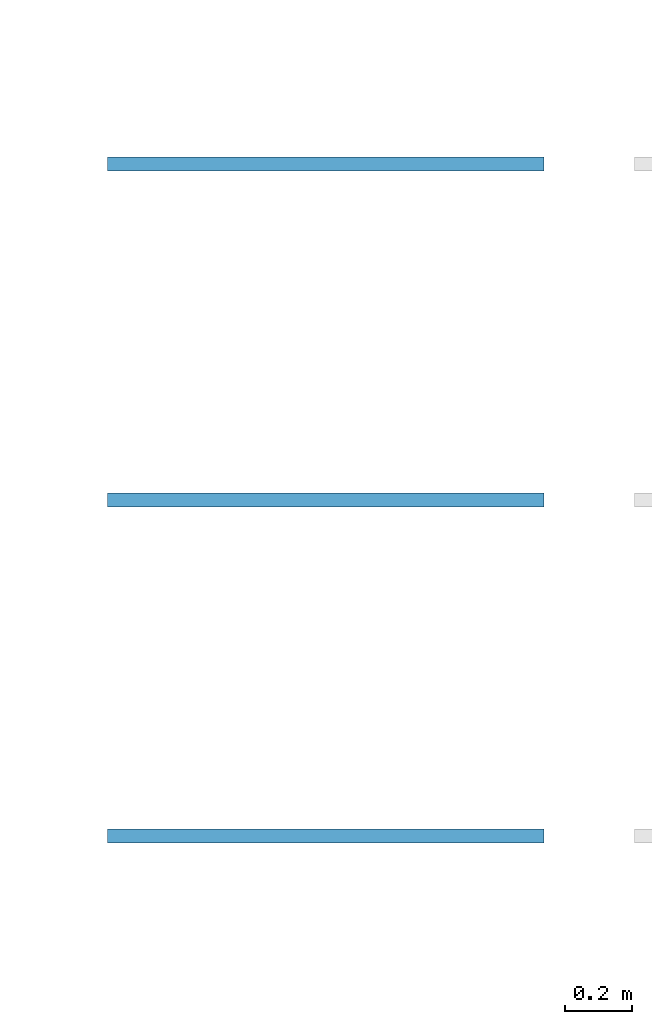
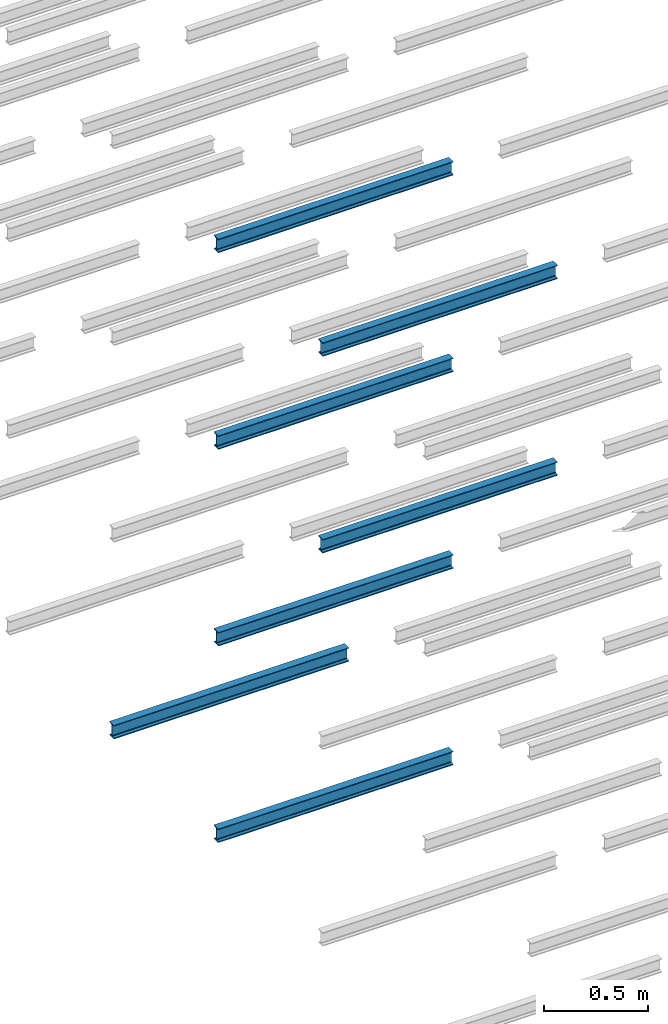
# One storey, part 78 of 290: 7 beams.
"""IFC2X3 building model written with IfcOpenShell, lengths in metres."""

from ifc_helpers import new_model, entity, si_unit, converted_unit, derived_unit, direction, frame, frame_2d, origin, place, context, subcontext, project, spatial, polyline, circle_curve, parameter, trimmed, segment, composite_curve, outline, extrude, material, type_object, element, save


model = new_model("IFC2X3")

# Units and contexts
model_context = context("Model", 3, precision=1e-05, world=origin(), true_north=direction((6.12303176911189e-17, 1.0)))
body_context = subcontext(model_context, "Body", "Model", "MODEL_VIEW")
ifc_project = project(units=[si_unit("LENGTHUNIT", "METRE"), si_unit("AREAUNIT", "SQUARE_METRE"), si_unit("VOLUMEUNIT", "CUBIC_METRE"), converted_unit("PLANEANGLEUNIT", "DEGREE", entity("IfcRatioMeasure", 0.0174532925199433), si_unit("PLANEANGLEUNIT", "RADIAN"), dimensions=[0, 0, 0, 0, 0, 0, 0]), si_unit("MASSUNIT", "GRAM", prefix="KILO"), derived_unit("MASSDENSITYUNIT", [(si_unit("MASSUNIT", "GRAM", prefix="KILO"), 1), (si_unit("LENGTHUNIT", "METRE"), -3)]), derived_unit("MOMENTOFINERTIAUNIT", [(si_unit("LENGTHUNIT", "METRE"), 4)]), si_unit("TIMEUNIT", "SECOND"), si_unit("FREQUENCYUNIT", "HERTZ"), si_unit("THERMODYNAMICTEMPERATUREUNIT", "DEGREE_CELSIUS"), derived_unit("THERMALTRANSMITTANCEUNIT", [(si_unit("MASSUNIT", "GRAM", prefix="KILO"), 1), (si_unit("THERMODYNAMICTEMPERATUREUNIT", "KELVIN"), -1), (si_unit("TIMEUNIT", "SECOND"), -3)]), derived_unit("VOLUMETRICFLOWRATEUNIT", [(si_unit("LENGTHUNIT", "METRE"), 3), (si_unit("TIMEUNIT", "SECOND"), -1)]), si_unit("ELECTRICCURRENTUNIT", "AMPERE"), si_unit("ELECTRICVOLTAGEUNIT", "VOLT"), si_unit("POWERUNIT", "WATT"), si_unit("FORCEUNIT", "NEWTON", prefix="KILO"), si_unit("ILLUMINANCEUNIT", "LUX"), si_unit("LUMINOUSFLUXUNIT", "LUMEN"), si_unit("LUMINOUSINTENSITYUNIT", "CANDELA"), derived_unit("USERDEFINED", [(si_unit("MASSUNIT", "GRAM", prefix="KILO"), -1), (si_unit("LENGTHUNIT", "METRE"), -2), (si_unit("TIMEUNIT", "SECOND"), 3), (si_unit("LUMINOUSFLUXUNIT", "LUMEN"), 1)]), derived_unit("LINEARVELOCITYUNIT", [(si_unit("LENGTHUNIT", "METRE"), 1), (si_unit("TIMEUNIT", "SECOND"), -1)]), si_unit("PRESSUREUNIT", "PASCAL"), derived_unit("USERDEFINED", [(si_unit("LENGTHUNIT", "METRE"), -2), (si_unit("MASSUNIT", "GRAM", prefix="KILO"), 1), (si_unit("TIMEUNIT", "SECOND"), -2)]), derived_unit("LINEARFORCEUNIT", [(si_unit("MASSUNIT", "GRAM", prefix="KILO"), 1), (si_unit("LENGTHUNIT", "METRE"), 1), (si_unit("TIMEUNIT", "SECOND"), -2), (si_unit("LENGTHUNIT", "METRE"), -1)]), derived_unit("PLANARFORCEUNIT", [(si_unit("MASSUNIT", "GRAM", prefix="KILO"), 1), (si_unit("LENGTHUNIT", "METRE"), 1), (si_unit("TIMEUNIT", "SECOND"), -2), (si_unit("LENGTHUNIT", "METRE"), -2)])], contexts=[model_context])

# Site, building, storey
site_placement = place(None, origin())
site = spatial("IfcSite", under=ifc_project, at=site_placement, Name="Default", CompositionType="ELEMENT")
building_placement = place(site_placement, origin())
building = spatial("IfcBuilding", under=site, at=building_placement, CompositionType="ELEMENT")
storey_placement = place(building_placement, frame((0.0, 0.0, 4.0)))
storey = spatial("IfcBuildingStorey", under=building, at=storey_placement, Name="01_OG", CompositionType="ELEMENT", Elevation=4.0)

# Beams
ifc_material = material(Name="Metall - Baustahl S235")
beam_type = type_object("IfcBeamType", Name="IPN Träger:IPN 80", PredefinedType="NOTDEFINED")
beam_1_placement = place(storey_placement, frame((-170.780111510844, 34.036588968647, -1.73), z_axis=(0.0, 0.0, 1.0), x_axis=(-1.0, 0.0, 0.0)))
element("IfcBeam", 1, at=beam_1_placement, inside=storey, type_object=beam_type, material=ifc_material, Name="IPN Träger:IPN 80", ObjectType="IPN Träger:IPN 80", context=body_context, shape_type="SweptSolid", body=[
    extrude(outline(composite_curve([segment(polyline([(0.0375704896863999, -0.0209999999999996), (0.0399999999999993, -0.0209999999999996)]), True, "CONTINUOUS"), segment(polyline([(0.0399999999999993, -0.0209999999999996), (0.0399999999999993, 0.0209999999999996)]), True, "CONTINUOUS"), segment(polyline([(0.0399999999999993, 0.0209999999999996), (0.0375704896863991, 0.0209999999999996)]), True, "CONTINUOUS"), segment(trimmed(circle_curve(frame_2d((0.0375704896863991, 0.0187000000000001), x_axis=(0.0, 1.0)), 0.00230000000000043), [parameter(0.0)], [parameter(82.0299999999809)], True, "PARAMETER"), True, "CONTINUOUS"), segment(polyline([(0.0352927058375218, 0.0190189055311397), (0.0333732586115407, 0.00530924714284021)]), True, "CONTINUOUS"), segment(trimmed(circle_curve(frame_2d((0.0295109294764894, 0.00584999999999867), x_axis=(0.990340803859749, -0.138654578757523)), 0.00389999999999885), [parameter(277.969999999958)], [parameter(0.0)], True, "PARAMETER"), False, "CONTINUOUS"), segment(polyline([(0.0295109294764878, 0.00194999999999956), (-0.0295109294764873, 0.00194999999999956)]), True, "CONTINUOUS"), segment(trimmed(circle_curve(frame_2d((-0.0295109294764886, 0.00584999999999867), x_axis=(0.0, -1.0)), 0.00389999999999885), [parameter(277.969999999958)], [parameter(0.0)], True, "PARAMETER"), False, "CONTINUOUS"), segment(polyline([(-0.0333732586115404, 0.00530924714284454), (-0.0352927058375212, 0.019018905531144)]), True, "CONTINUOUS"), segment(trimmed(circle_curve(frame_2d((-0.0375704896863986, 0.0187000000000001), x_axis=(0.990340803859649, 0.138654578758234)), 0.00230000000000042), [parameter(0.0)], [parameter(82.0299999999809)], True, "PARAMETER"), True, "CONTINUOUS"), segment(polyline([(-0.0375704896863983, 0.0209999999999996), (-0.0400000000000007, 0.0209999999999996)]), True, "CONTINUOUS"), segment(polyline([(-0.0400000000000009, 0.0209999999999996), (-0.0400000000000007, -0.0209999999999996)]), True, "CONTINUOUS"), segment(polyline([(-0.0400000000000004, -0.0209999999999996), (-0.0375704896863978, -0.0209999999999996)]), True, "CONTINUOUS"), segment(trimmed(circle_curve(frame_2d((-0.0375704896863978, -0.0187000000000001), x_axis=(0.0, -1.0)), 0.00230000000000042), [parameter(0.0)], [parameter(82.0299999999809)], True, "PARAMETER"), True, "CONTINUOUS"), segment(polyline([(-0.0352927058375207, -0.0190189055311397), (-0.0333732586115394, -0.00530924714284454)]), True, "CONTINUOUS"), segment(trimmed(circle_curve(frame_2d((-0.0295109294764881, -0.00584999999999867), x_axis=(-0.990340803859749, 0.138654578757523)), 0.00389999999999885), [parameter(277.969999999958)], [parameter(0.0)], True, "PARAMETER"), False, "CONTINUOUS"), segment(polyline([(-0.0295109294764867, -0.00194999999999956), (0.0295109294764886, -0.00194999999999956)]), True, "CONTINUOUS"), segment(trimmed(circle_curve(frame_2d((0.0295109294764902, -0.00584999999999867), x_axis=(0.0, 1.0)), 0.0038999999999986), [parameter(277.969999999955)], [parameter(0.0)], True, "PARAMETER"), False, "CONTINUOUS"), segment(polyline([(0.0333732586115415, -0.00530924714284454), (0.0352927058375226, -0.019018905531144)]), True, "CONTINUOUS"), segment(trimmed(circle_curve(frame_2d((0.0375704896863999, -0.0187000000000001), x_axis=(-0.990340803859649, -0.138654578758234)), 0.00230000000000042), [parameter(0.0)], [parameter(82.0299999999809)], True, "PARAMETER"), True, "CONTINUOUS")], self_intersect=False)), frame((0.00010000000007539, 0.0209999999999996, -0.0400000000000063), z_axis=(1.0, 0.0, 0.0), x_axis=(0.0, 0.0, -1.0)), (0.0, 0.0, 1.0), 1.29990000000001),
])
beam_2_placement = place(storey_placement, frame((-170.780111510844, 33.036588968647, -1.73), z_axis=(0.0, 0.0, 1.0), x_axis=(-1.0, 0.0, 0.0)))
element("IfcBeam", 2, at=beam_2_placement, inside=storey, type_object=beam_type, material=ifc_material, Name="IPN Träger:IPN 80", ObjectType="IPN Träger:IPN 80", context=body_context, shape_type="SweptSolid", body=[
    extrude(outline(composite_curve([segment(polyline([(0.0375704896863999, -0.0209999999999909), (0.0399999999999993, -0.0209999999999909)]), True, "CONTINUOUS"), segment(polyline([(0.0399999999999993, -0.0209999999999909), (0.0399999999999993, 0.0210000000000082)]), True, "CONTINUOUS"), segment(polyline([(0.0399999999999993, 0.0210000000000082), (0.0375704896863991, 0.0210000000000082)]), True, "CONTINUOUS"), segment(trimmed(circle_curve(frame_2d((0.0375704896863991, 0.0187000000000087), x_axis=(0.0, 1.0)), 0.00230000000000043), [parameter(0.0)], [parameter(82.0299999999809)], True, "PARAMETER"), True, "CONTINUOUS"), segment(polyline([(0.0352927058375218, 0.0190189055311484), (0.0333732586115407, 0.00530924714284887)]), True, "CONTINUOUS"), segment(trimmed(circle_curve(frame_2d((0.0295109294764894, 0.00585000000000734), x_axis=(0.990340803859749, -0.138654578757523)), 0.00389999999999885), [parameter(277.969999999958)], [parameter(0.0)], True, "PARAMETER"), False, "CONTINUOUS"), segment(polyline([(0.0295109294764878, 0.00195000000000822), (-0.0295109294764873, 0.00195000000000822)]), True, "CONTINUOUS"), segment(trimmed(circle_curve(frame_2d((-0.0295109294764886, 0.00585000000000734), x_axis=(0.0, -1.0)), 0.00389999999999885), [parameter(277.969999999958)], [parameter(0.0)], True, "PARAMETER"), False, "CONTINUOUS"), segment(polyline([(-0.0333732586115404, 0.0053092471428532), (-0.0352927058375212, 0.0190189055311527)]), True, "CONTINUOUS"), segment(trimmed(circle_curve(frame_2d((-0.0375704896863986, 0.0187000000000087), x_axis=(0.990340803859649, 0.138654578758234)), 0.00230000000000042), [parameter(0.0)], [parameter(82.0299999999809)], True, "PARAMETER"), True, "CONTINUOUS"), segment(polyline([(-0.0375704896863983, 0.0210000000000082), (-0.0400000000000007, 0.0210000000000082)]), True, "CONTINUOUS"), segment(polyline([(-0.0400000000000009, 0.0210000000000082), (-0.0400000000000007, -0.0209999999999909)]), True, "CONTINUOUS"), segment(polyline([(-0.0400000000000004, -0.0209999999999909), (-0.0375704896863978, -0.0209999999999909)]), True, "CONTINUOUS"), segment(trimmed(circle_curve(frame_2d((-0.0375704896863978, -0.0186999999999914), x_axis=(0.0, -1.0)), 0.00230000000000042), [parameter(0.0)], [parameter(82.0299999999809)], True, "PARAMETER"), True, "CONTINUOUS"), segment(polyline([(-0.0352927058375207, -0.019018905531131), (-0.0333732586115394, -0.00530924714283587)]), True, "CONTINUOUS"), segment(trimmed(circle_curve(frame_2d((-0.0295109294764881, -0.00584999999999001), x_axis=(-0.990340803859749, 0.138654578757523)), 0.00389999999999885), [parameter(277.969999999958)], [parameter(0.0)], True, "PARAMETER"), False, "CONTINUOUS"), segment(polyline([(-0.0295109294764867, -0.00194999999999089), (0.0295109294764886, -0.00194999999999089)]), True, "CONTINUOUS"), segment(trimmed(circle_curve(frame_2d((0.0295109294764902, -0.00584999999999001), x_axis=(0.0, 1.0)), 0.0038999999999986), [parameter(277.969999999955)], [parameter(0.0)], True, "PARAMETER"), False, "CONTINUOUS"), segment(polyline([(0.0333732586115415, -0.00530924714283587), (0.0352927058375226, -0.0190189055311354)]), True, "CONTINUOUS"), segment(trimmed(circle_curve(frame_2d((0.0375704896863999, -0.0186999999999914), x_axis=(-0.990340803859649, -0.138654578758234)), 0.00230000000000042), [parameter(0.0)], [parameter(82.0299999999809)], True, "PARAMETER"), True, "CONTINUOUS")], self_intersect=False)), frame((0.00010000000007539, 0.0209999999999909, -0.0400000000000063), z_axis=(1.0, 0.0, 0.0), x_axis=(0.0, 0.0, -1.0)), (0.0, 0.0, 1.0), 1.29990000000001),
])
beam_3_placement = place(storey_placement, frame((-170.780111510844, 33.036588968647, -0.579999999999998), z_axis=(0.0, 0.0, 1.0), x_axis=(-1.0, 0.0, 0.0)))
element("IfcBeam", 3, at=beam_3_placement, inside=storey, type_object=beam_type, material=ifc_material, Name="IPN Träger:IPN 80", ObjectType="IPN Träger:IPN 80", context=body_context, shape_type="SweptSolid", body=[
    extrude(outline(composite_curve([segment(polyline([(0.0375704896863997, -0.0209999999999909), (0.039999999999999, -0.0209999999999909)]), True, "CONTINUOUS"), segment(polyline([(0.039999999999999, -0.0209999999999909), (0.039999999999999, 0.0210000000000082)]), True, "CONTINUOUS"), segment(polyline([(0.039999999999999, 0.0210000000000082), (0.0375704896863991, 0.0210000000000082)]), True, "CONTINUOUS"), segment(trimmed(circle_curve(frame_2d((0.0375704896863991, 0.0187000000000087), x_axis=(0.0, 1.0)), 0.00230000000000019), [parameter(0.0)], [parameter(82.02999999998)], True, "PARAMETER"), True, "CONTINUOUS"), segment(polyline([(0.0352927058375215, 0.0190189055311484), (0.0333732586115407, 0.00530924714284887)]), True, "CONTINUOUS"), segment(trimmed(circle_curve(frame_2d((0.0295109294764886, 0.00585000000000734), x_axis=(0.990340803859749, -0.138654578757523)), 0.00389999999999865), [parameter(277.969999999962)], [parameter(0.0)], True, "PARAMETER"), False, "CONTINUOUS"), segment(polyline([(0.0295109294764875, 0.00195000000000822), (-0.0295109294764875, 0.00195000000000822)]), True, "CONTINUOUS"), segment(trimmed(circle_curve(frame_2d((-0.0295109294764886, 0.00585000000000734), x_axis=(0.0, -1.0)), 0.00389999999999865), [parameter(277.969999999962)], [parameter(0.0)], True, "PARAMETER"), False, "CONTINUOUS"), segment(polyline([(-0.0333732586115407, 0.0053092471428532), (-0.0352927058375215, 0.0190189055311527)]), True, "CONTINUOUS"), segment(trimmed(circle_curve(frame_2d((-0.0375704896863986, 0.0187000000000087), x_axis=(0.990340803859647, 0.138654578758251)), 0.00230000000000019), [parameter(0.0)], [parameter(82.02999999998)], True, "PARAMETER"), True, "CONTINUOUS"), segment(polyline([(-0.0375704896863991, 0.0210000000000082), (-0.0400000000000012, 0.0210000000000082)]), True, "CONTINUOUS"), segment(polyline([(-0.0400000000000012, 0.0210000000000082), (-0.0400000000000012, -0.0209999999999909)]), True, "CONTINUOUS"), segment(polyline([(-0.0400000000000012, -0.0209999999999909), (-0.037570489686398, -0.0209999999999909)]), True, "CONTINUOUS"), segment(trimmed(circle_curve(frame_2d((-0.037570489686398, -0.0186999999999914), x_axis=(0.0, -1.0)), 0.00230000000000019), [parameter(0.0)], [parameter(82.02999999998)], True, "PARAMETER"), True, "CONTINUOUS"), segment(polyline([(-0.035292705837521, -0.019018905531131), (-0.0333732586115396, -0.00530924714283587)]), True, "CONTINUOUS"), segment(trimmed(circle_curve(frame_2d((-0.0295109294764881, -0.00584999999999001), x_axis=(-0.990340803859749, 0.138654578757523)), 0.00389999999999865), [parameter(277.969999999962)], [parameter(0.0)], True, "PARAMETER"), False, "CONTINUOUS"), segment(polyline([(-0.029510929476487, -0.00194999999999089), (0.0295109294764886, -0.00194999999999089)]), True, "CONTINUOUS"), segment(trimmed(circle_curve(frame_2d((0.0295109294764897, -0.00584999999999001), x_axis=(0.0, 1.0)), 0.00389999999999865), [parameter(277.969999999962)], [parameter(0.0)], True, "PARAMETER"), False, "CONTINUOUS"), segment(polyline([(0.0333732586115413, -0.00530924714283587), (0.0352927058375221, -0.0190189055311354)]), True, "CONTINUOUS"), segment(trimmed(circle_curve(frame_2d((0.0375704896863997, -0.0186999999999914), x_axis=(-0.990340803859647, -0.138654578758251)), 0.00230000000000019), [parameter(0.0)], [parameter(82.02999999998)], True, "PARAMETER"), True, "CONTINUOUS")], self_intersect=False)), frame((0.000100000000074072, 0.0209999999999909, -0.0400000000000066), z_axis=(1.0, 0.0, 0.0), x_axis=(0.0, 0.0, -1.0)), (0.0, 0.0, 1.0), 1.29990000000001),
])
beam_4_placement = place(storey_placement, frame((-170.780111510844, 33.036588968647, 0.570000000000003), z_axis=(0.0, 0.0, 1.0), x_axis=(-1.0, 0.0, 0.0)))
element("IfcBeam", 4, at=beam_4_placement, inside=storey, type_object=beam_type, material=ifc_material, Name="IPN Träger:IPN 80", ObjectType="IPN Träger:IPN 80", context=body_context, shape_type="SweptSolid", body=[
    extrude(outline(composite_curve([segment(polyline([(0.0375704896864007, -0.0209999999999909), (0.0400000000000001, -0.0209999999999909)]), True, "CONTINUOUS"), segment(polyline([(0.0400000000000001, -0.0209999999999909), (0.0400000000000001, 0.0210000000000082)]), True, "CONTINUOUS"), segment(polyline([(0.0400000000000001, 0.0210000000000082), (0.0375704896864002, 0.0210000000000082)]), True, "CONTINUOUS"), segment(trimmed(circle_curve(frame_2d((0.0375704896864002, 0.0187000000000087), x_axis=(0.0, 1.0)), 0.00230000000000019), [parameter(0.0)], [parameter(82.02999999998)], True, "PARAMETER"), True, "CONTINUOUS"), segment(polyline([(0.0352927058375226, 0.0190189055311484), (0.0333732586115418, 0.00530924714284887)]), True, "CONTINUOUS"), segment(trimmed(circle_curve(frame_2d((0.0295109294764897, 0.00585000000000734), x_axis=(0.990340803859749, -0.138654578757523)), 0.00389999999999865), [parameter(277.969999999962)], [parameter(0.0)], True, "PARAMETER"), False, "CONTINUOUS"), segment(polyline([(0.0295109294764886, 0.00195000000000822), (-0.0295109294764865, 0.00195000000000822)]), True, "CONTINUOUS"), segment(trimmed(circle_curve(frame_2d((-0.0295109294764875, 0.00585000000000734), x_axis=(0.0, -1.0)), 0.00389999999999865), [parameter(277.969999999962)], [parameter(0.0)], True, "PARAMETER"), False, "CONTINUOUS"), segment(polyline([(-0.0333732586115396, 0.0053092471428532), (-0.0352927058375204, 0.0190189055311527)]), True, "CONTINUOUS"), segment(trimmed(circle_curve(frame_2d((-0.0375704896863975, 0.0187000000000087), x_axis=(0.990340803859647, 0.138654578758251)), 0.00230000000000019), [parameter(0.0)], [parameter(82.02999999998)], True, "PARAMETER"), True, "CONTINUOUS"), segment(polyline([(-0.037570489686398, 0.0210000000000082), (-0.0400000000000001, 0.0210000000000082)]), True, "CONTINUOUS"), segment(polyline([(-0.0400000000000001, 0.0210000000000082), (-0.0400000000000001, -0.0209999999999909)]), True, "CONTINUOUS"), segment(polyline([(-0.0400000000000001, -0.0209999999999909), (-0.0375704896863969, -0.0209999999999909)]), True, "CONTINUOUS"), segment(trimmed(circle_curve(frame_2d((-0.0375704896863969, -0.0186999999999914), x_axis=(0.0, -1.0)), 0.00230000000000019), [parameter(0.0)], [parameter(82.02999999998)], True, "PARAMETER"), True, "CONTINUOUS"), segment(polyline([(-0.0352927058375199, -0.019018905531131), (-0.0333732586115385, -0.00530924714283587)]), True, "CONTINUOUS"), segment(trimmed(circle_curve(frame_2d((-0.029510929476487, -0.00584999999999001), x_axis=(-0.990340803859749, 0.138654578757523)), 0.00389999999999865), [parameter(277.969999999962)], [parameter(0.0)], True, "PARAMETER"), False, "CONTINUOUS"), segment(polyline([(-0.0295109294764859, -0.00194999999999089), (0.0295109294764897, -0.00194999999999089)]), True, "CONTINUOUS"), segment(trimmed(circle_curve(frame_2d((0.0295109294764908, -0.00584999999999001), x_axis=(0.0, 1.0)), 0.00389999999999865), [parameter(277.969999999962)], [parameter(0.0)], True, "PARAMETER"), False, "CONTINUOUS"), segment(polyline([(0.0333732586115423, -0.00530924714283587), (0.0352927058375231, -0.0190189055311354)]), True, "CONTINUOUS"), segment(trimmed(circle_curve(frame_2d((0.0375704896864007, -0.0186999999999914), x_axis=(-0.990340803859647, -0.138654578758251)), 0.00230000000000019), [parameter(0.0)], [parameter(82.02999999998)], True, "PARAMETER"), True, "CONTINUOUS")], self_intersect=False)), frame((0.000100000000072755, 0.0209999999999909, -0.0400000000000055), z_axis=(1.0, 0.0, 0.0), x_axis=(0.0, 0.0, -1.0)), (0.0, 0.0, 1.0), 1.29990000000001),
])
beam_5_placement = place(storey_placement, frame((-170.780111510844, 33.036588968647, 1.72), z_axis=(0.0, 0.0, 1.0), x_axis=(-1.0, 0.0, 0.0)))
element("IfcBeam", 5, at=beam_5_placement, inside=storey, type_object=beam_type, material=ifc_material, Name="IPN Träger:IPN 80", ObjectType="IPN Träger:IPN 80", context=body_context, shape_type="SweptSolid", body=[
    extrude(outline(composite_curve([segment(polyline([(0.0375704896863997, -0.0209999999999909), (0.0399999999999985, -0.0209999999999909)]), True, "CONTINUOUS"), segment(polyline([(0.0399999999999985, -0.0209999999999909), (0.0399999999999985, 0.0210000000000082)]), True, "CONTINUOUS"), segment(polyline([(0.0399999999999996, 0.0210000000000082), (0.0375704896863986, 0.0210000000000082)]), True, "CONTINUOUS"), segment(trimmed(circle_curve(frame_2d((0.0375704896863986, 0.0187000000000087), x_axis=(0.0, 1.0)), 0.00230000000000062), [parameter(0.0)], [parameter(82.0299999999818)], True, "PARAMETER"), True, "CONTINUOUS"), segment(polyline([(0.0352927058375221, 0.0190189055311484), (0.0333732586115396, 0.00530924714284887)]), True, "CONTINUOUS"), segment(trimmed(circle_curve(frame_2d((0.0295109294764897, 0.00585000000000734), x_axis=(0.990340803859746, -0.138654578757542)), 0.00389999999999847), [parameter(277.969999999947)], [parameter(0.0)], True, "PARAMETER"), False, "CONTINUOUS"), segment(polyline([(0.0295109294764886, 0.00195000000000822), (-0.0295109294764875, 0.00195000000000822)]), True, "CONTINUOUS"), segment(trimmed(circle_curve(frame_2d((-0.0295109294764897, 0.00585000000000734), x_axis=(0.0, -1.0)), 0.00389999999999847), [parameter(277.969999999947)], [parameter(0.0)], True, "PARAMETER"), False, "CONTINUOUS"), segment(polyline([(-0.0333732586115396, 0.0053092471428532), (-0.0352927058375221, 0.0190189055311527)]), True, "CONTINUOUS"), segment(trimmed(circle_curve(frame_2d((-0.0375704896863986, 0.0187000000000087), x_axis=(0.990340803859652, 0.138654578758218)), 0.00230000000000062), [parameter(0.0)], [parameter(82.0299999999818)], True, "PARAMETER"), True, "CONTINUOUS"), segment(polyline([(-0.0375704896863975, 0.0210000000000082), (-0.0400000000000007, 0.0210000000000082)]), True, "CONTINUOUS"), segment(polyline([(-0.0400000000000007, 0.0210000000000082), (-0.0400000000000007, -0.0209999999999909)]), True, "CONTINUOUS"), segment(polyline([(-0.0400000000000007, -0.0209999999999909), (-0.0375704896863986, -0.0209999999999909)]), True, "CONTINUOUS"), segment(trimmed(circle_curve(frame_2d((-0.0375704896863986, -0.0186999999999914), x_axis=(0.0, -1.0)), 0.00230000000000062), [parameter(0.0)], [parameter(82.0299999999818)], True, "PARAMETER"), True, "CONTINUOUS"), segment(polyline([(-0.035292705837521, -0.019018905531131), (-0.0333732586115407, -0.00530924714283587)]), True, "CONTINUOUS"), segment(trimmed(circle_curve(frame_2d((-0.0295109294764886, -0.00584999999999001), x_axis=(-0.990340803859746, 0.138654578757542)), 0.00389999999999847), [parameter(277.969999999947)], [parameter(0.0)], True, "PARAMETER"), False, "CONTINUOUS"), segment(polyline([(-0.0295109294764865, -0.00194999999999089), (0.0295109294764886, -0.00194999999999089)]), True, "CONTINUOUS"), segment(trimmed(circle_curve(frame_2d((0.0295109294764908, -0.00584999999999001), x_axis=(0.0, 1.0)), 0.00389999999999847), [parameter(277.969999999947)], [parameter(0.0)], True, "PARAMETER"), False, "CONTINUOUS"), segment(polyline([(0.0333732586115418, -0.00530924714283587), (0.0352927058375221, -0.0190189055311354)]), True, "CONTINUOUS"), segment(trimmed(circle_curve(frame_2d((0.0375704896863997, -0.0186999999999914), x_axis=(-0.990340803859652, -0.138654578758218)), 0.00230000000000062), [parameter(0.0)], [parameter(82.0299999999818)], True, "PARAMETER"), True, "CONTINUOUS")], self_intersect=False)), frame((0.000100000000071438, 0.0209999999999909, -0.040000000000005), z_axis=(1.0, 0.0, 0.0), x_axis=(0.0, 0.0, -1.0)), (0.0, 0.0, 1.0), 1.29990000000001),
])
beam_6_placement = place(storey_placement, frame((-170.780111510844, 32.036588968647, 0.570000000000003), z_axis=(0.0, 0.0, 1.0), x_axis=(-1.0, 0.0, 0.0)))
element("IfcBeam", 6, at=beam_6_placement, inside=storey, type_object=beam_type, material=ifc_material, Name="IPN Träger:IPN 80", ObjectType="IPN Träger:IPN 80", context=body_context, shape_type="SweptSolid", body=[
    extrude(outline(composite_curve([segment(polyline([(0.0375704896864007, -0.0210000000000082), (0.0400000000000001, -0.0210000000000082)]), True, "CONTINUOUS"), segment(polyline([(0.0400000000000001, -0.0210000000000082), (0.0400000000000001, 0.0209999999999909)]), True, "CONTINUOUS"), segment(polyline([(0.0400000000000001, 0.0209999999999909), (0.0375704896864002, 0.0209999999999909)]), True, "CONTINUOUS"), segment(trimmed(circle_curve(frame_2d((0.0375704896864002, 0.0186999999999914), x_axis=(0.0, 1.0)), 0.00230000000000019), [parameter(0.0)], [parameter(82.02999999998)], True, "PARAMETER"), True, "CONTINUOUS"), segment(polyline([(0.0352927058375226, 0.019018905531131), (0.0333732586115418, 0.00530924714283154)]), True, "CONTINUOUS"), segment(trimmed(circle_curve(frame_2d((0.0295109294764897, 0.00584999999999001), x_axis=(0.990340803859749, -0.138654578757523)), 0.00389999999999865), [parameter(277.969999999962)], [parameter(0.0)], True, "PARAMETER"), False, "CONTINUOUS"), segment(polyline([(0.0295109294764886, 0.00194999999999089), (-0.0295109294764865, 0.00194999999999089)]), True, "CONTINUOUS"), segment(trimmed(circle_curve(frame_2d((-0.0295109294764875, 0.00584999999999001), x_axis=(0.0, -1.0)), 0.00389999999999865), [parameter(277.969999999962)], [parameter(0.0)], True, "PARAMETER"), False, "CONTINUOUS"), segment(polyline([(-0.0333732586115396, 0.00530924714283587), (-0.0352927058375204, 0.0190189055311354)]), True, "CONTINUOUS"), segment(trimmed(circle_curve(frame_2d((-0.0375704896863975, 0.0186999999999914), x_axis=(0.990340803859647, 0.138654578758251)), 0.00230000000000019), [parameter(0.0)], [parameter(82.02999999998)], True, "PARAMETER"), True, "CONTINUOUS"), segment(polyline([(-0.037570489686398, 0.0209999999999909), (-0.0400000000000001, 0.0209999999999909)]), True, "CONTINUOUS"), segment(polyline([(-0.0400000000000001, 0.0209999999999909), (-0.0400000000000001, -0.0210000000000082)]), True, "CONTINUOUS"), segment(polyline([(-0.0400000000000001, -0.0210000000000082), (-0.0375704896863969, -0.0210000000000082)]), True, "CONTINUOUS"), segment(trimmed(circle_curve(frame_2d((-0.0375704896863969, -0.0187000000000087), x_axis=(0.0, -1.0)), 0.00230000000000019), [parameter(0.0)], [parameter(82.02999999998)], True, "PARAMETER"), True, "CONTINUOUS"), segment(polyline([(-0.0352927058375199, -0.0190189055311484), (-0.0333732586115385, -0.0053092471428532)]), True, "CONTINUOUS"), segment(trimmed(circle_curve(frame_2d((-0.029510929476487, -0.00585000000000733), x_axis=(-0.990340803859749, 0.138654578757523)), 0.00389999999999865), [parameter(277.969999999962)], [parameter(0.0)], True, "PARAMETER"), False, "CONTINUOUS"), segment(polyline([(-0.0295109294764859, -0.00195000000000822), (0.0295109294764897, -0.00195000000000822)]), True, "CONTINUOUS"), segment(trimmed(circle_curve(frame_2d((0.0295109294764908, -0.00585000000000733), x_axis=(0.0, 1.0)), 0.00389999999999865), [parameter(277.969999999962)], [parameter(0.0)], True, "PARAMETER"), False, "CONTINUOUS"), segment(polyline([(0.0333732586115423, -0.0053092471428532), (0.0352927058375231, -0.0190189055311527)]), True, "CONTINUOUS"), segment(trimmed(circle_curve(frame_2d((0.0375704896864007, -0.0187000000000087), x_axis=(-0.990340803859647, -0.138654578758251)), 0.00230000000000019), [parameter(0.0)], [parameter(82.02999999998)], True, "PARAMETER"), True, "CONTINUOUS")], self_intersect=False)), frame((0.000100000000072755, 0.0210000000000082, -0.0400000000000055), z_axis=(1.0, 0.0, 0.0), x_axis=(0.0, 0.0, -1.0)), (0.0, 0.0, 1.0), 1.29990000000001),
])
beam_7_placement = place(storey_placement, frame((-170.780111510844, 32.036588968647, 1.72), z_axis=(0.0, 0.0, 1.0), x_axis=(-1.0, 0.0, 0.0)))
element("IfcBeam", 7, at=beam_7_placement, inside=storey, type_object=beam_type, material=ifc_material, Name="IPN Träger:IPN 80", ObjectType="IPN Träger:IPN 80", context=body_context, shape_type="SweptSolid", body=[
    extrude(outline(composite_curve([segment(polyline([(0.0375704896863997, -0.0210000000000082), (0.0399999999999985, -0.0210000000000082)]), True, "CONTINUOUS"), segment(polyline([(0.0399999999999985, -0.0210000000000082), (0.0399999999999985, 0.0209999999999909)]), True, "CONTINUOUS"), segment(polyline([(0.0399999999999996, 0.0209999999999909), (0.0375704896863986, 0.0209999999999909)]), True, "CONTINUOUS"), segment(trimmed(circle_curve(frame_2d((0.0375704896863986, 0.0186999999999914), x_axis=(0.0, 1.0)), 0.00230000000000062), [parameter(0.0)], [parameter(82.0299999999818)], True, "PARAMETER"), True, "CONTINUOUS"), segment(polyline([(0.0352927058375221, 0.019018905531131), (0.0333732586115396, 0.00530924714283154)]), True, "CONTINUOUS"), segment(trimmed(circle_curve(frame_2d((0.0295109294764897, 0.00584999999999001), x_axis=(0.990340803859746, -0.138654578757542)), 0.00389999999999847), [parameter(277.969999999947)], [parameter(0.0)], True, "PARAMETER"), False, "CONTINUOUS"), segment(polyline([(0.0295109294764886, 0.00194999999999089), (-0.0295109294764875, 0.00194999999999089)]), True, "CONTINUOUS"), segment(trimmed(circle_curve(frame_2d((-0.0295109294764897, 0.00584999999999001), x_axis=(0.0, -1.0)), 0.00389999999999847), [parameter(277.969999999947)], [parameter(0.0)], True, "PARAMETER"), False, "CONTINUOUS"), segment(polyline([(-0.0333732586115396, 0.00530924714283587), (-0.0352927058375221, 0.0190189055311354)]), True, "CONTINUOUS"), segment(trimmed(circle_curve(frame_2d((-0.0375704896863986, 0.0186999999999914), x_axis=(0.990340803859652, 0.138654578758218)), 0.00230000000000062), [parameter(0.0)], [parameter(82.0299999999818)], True, "PARAMETER"), True, "CONTINUOUS"), segment(polyline([(-0.0375704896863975, 0.0209999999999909), (-0.0400000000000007, 0.0209999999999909)]), True, "CONTINUOUS"), segment(polyline([(-0.0400000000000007, 0.0209999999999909), (-0.0400000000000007, -0.0210000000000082)]), True, "CONTINUOUS"), segment(polyline([(-0.0400000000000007, -0.0210000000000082), (-0.0375704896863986, -0.0210000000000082)]), True, "CONTINUOUS"), segment(trimmed(circle_curve(frame_2d((-0.0375704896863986, -0.0187000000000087), x_axis=(0.0, -1.0)), 0.00230000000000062), [parameter(0.0)], [parameter(82.0299999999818)], True, "PARAMETER"), True, "CONTINUOUS"), segment(polyline([(-0.035292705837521, -0.0190189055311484), (-0.0333732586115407, -0.0053092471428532)]), True, "CONTINUOUS"), segment(trimmed(circle_curve(frame_2d((-0.0295109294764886, -0.00585000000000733), x_axis=(-0.990340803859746, 0.138654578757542)), 0.00389999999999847), [parameter(277.969999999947)], [parameter(0.0)], True, "PARAMETER"), False, "CONTINUOUS"), segment(polyline([(-0.0295109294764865, -0.00195000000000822), (0.0295109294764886, -0.00195000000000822)]), True, "CONTINUOUS"), segment(trimmed(circle_curve(frame_2d((0.0295109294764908, -0.00585000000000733), x_axis=(0.0, 1.0)), 0.00389999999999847), [parameter(277.969999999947)], [parameter(0.0)], True, "PARAMETER"), False, "CONTINUOUS"), segment(polyline([(0.0333732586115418, -0.0053092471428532), (0.0352927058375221, -0.0190189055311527)]), True, "CONTINUOUS"), segment(trimmed(circle_curve(frame_2d((0.0375704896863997, -0.0187000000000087), x_axis=(-0.990340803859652, -0.138654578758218)), 0.00230000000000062), [parameter(0.0)], [parameter(82.0299999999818)], True, "PARAMETER"), True, "CONTINUOUS")], self_intersect=False)), frame((0.000100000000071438, 0.0210000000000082, -0.040000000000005), z_axis=(1.0, 0.0, 0.0), x_axis=(0.0, 0.0, -1.0)), (0.0, 0.0, 1.0), 1.29990000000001),
])

save(model, "model.ifc")
